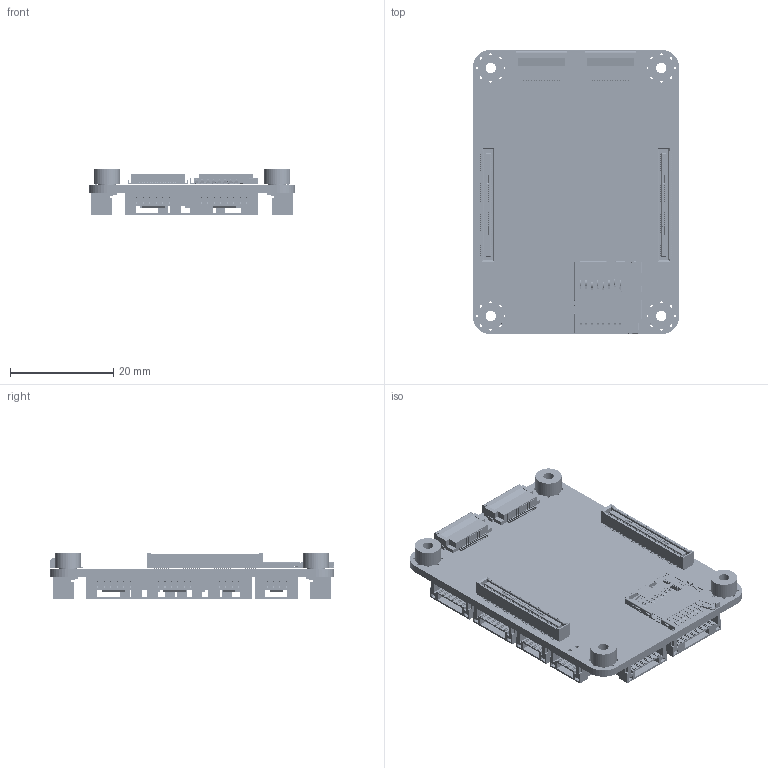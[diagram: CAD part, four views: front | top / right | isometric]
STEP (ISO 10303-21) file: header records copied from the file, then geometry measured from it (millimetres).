
FILE_DESCRIPTION(/* description */ ('KiCad electronic assembly'),/* implementation_level */ '2;1');
FILE_NAME(/* name */ 'Aerium_Pascal_3D_Model.step',/* time_stamp */ '2026-01-13T21:41:38+02:00',/* author */ (''),/* organization */ (''),/* preprocessor_version */ 'ST-DEVELOPER v20.1',/* originating_system */ 'Autodesk Translation Framework v14.21.0.0',/* authorisation */ '');
FILE_SCHEMA (('AUTOMOTIVE_DESIGN { 1 0 10303 214 3 1 1 }'));
Products named in the file (14): Aerium_Pascal_3D_Model 1; 503398-1892; SOLID; Hirose_FH12-15S-0.5SH_1x15-1MP_P0.50mm_Horizontal; body; lock; pins; DF40HC_3.0_-100DS-0.4V_58; SMTSO2530CTJ; JST_GH_SM08B-GHS-TB_1x08-1MP_P1.25mm_Horizontal; JST_GH_SM02B-GHS-TB_1x02-1MP_P1.25mm_Horizontal; JST_GH_SM04B-GHS-TB_1x04-1MP_P1.25mm_Horizontal; JST_GH_SM06B-GHS-TB_1x06-1MP_P1.25mm_Horizontal; pascal_PCB
Assembly tree (28 placements, depth 3):
  Aerium_Pascal_3D_Model 1
    DF40HC_3.0_-100DS-0.4V_58  x2
    SMTSO2530CTJ  x4
    Hirose_FH12-15S-0.5SH_1x15-1MP_P0.50mm_Horizontal  x2
      body
      lock
      pins
    503398-1892
      SOLID
    JST_GH_SM04B-GHS-TB_1x04-1MP_P1.25mm_Horizontal  x9
    JST_GH_SM06B-GHS-TB_1x06-1MP_P1.25mm_Horizontal  x3
    JST_GH_SM08B-GHS-TB_1x08-1MP_P1.25mm_Horizontal
    JST_GH_SM02B-GHS-TB_1x02-1MP_P1.25mm_Horizontal
    pascal_PCB
Bounding box: 40 x 55 x 8.93 mm (x, y, z)
Volume: 5343.8 mm3; surface area: 13017 mm2
Topology: 228 solids, 228 shells, 18454 faces, 52625 edges, 34967 vertices
Faces by surface type: plane 15810, cylinder 2588, bspline 48, cone 8
Full cylindrical faces by diameter (mm): 0.235 x2, 0.25 x1, 0.37 x2, 0.4 x1, 0.5 x32, 0.7 x4, 2.013 x4, 3.5 x4, 4.2 x4, 5.1 x4
Entity records: 301397 total; most frequent: CARTESIAN_POINT 53815, ORIENTED_EDGE 52126, DIRECTION 47085, EDGE_CURVE 26063, LINE 23043, VECTOR 23043, VERTEX_POINT 17303, AXIS2_PLACEMENT_3D 12021
